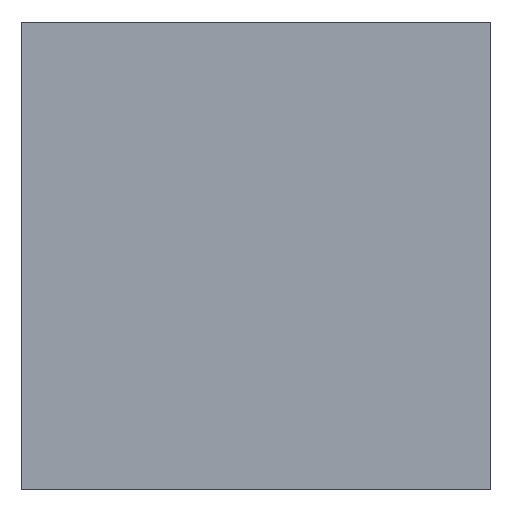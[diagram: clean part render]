
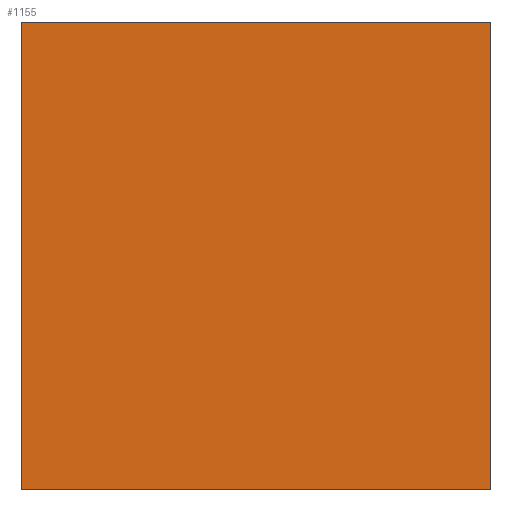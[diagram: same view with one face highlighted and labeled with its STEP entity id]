
A CAD part, left-side view. The second image highlights one B-rep face of the part: STEP entity #1155.
In plain terms, the highlighted planar face has unit normal (-1, 0, 0).
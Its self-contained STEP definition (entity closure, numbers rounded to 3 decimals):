
#447 = PLANE('',#448);
#448 = AXIS2_PLACEMENT_3D('',#449,#450,#451);
#449 = CARTESIAN_POINT('',(-5.52,-2.4,0.));
#450 = DIRECTION('',(0.,1.,0.));
#451 = DIRECTION('',(0.,0.,1.));
#555 = PLANE('',#556);
#556 = AXIS2_PLACEMENT_3D('',#557,#558,#559);
#557 = CARTESIAN_POINT('',(-5.52,-2.4,0.));
#558 = DIRECTION('',(0.,0.,1.));
#559 = DIRECTION('',(1.,0.,0.));
#679 = VERTEX_POINT('',#680);
#680 = CARTESIAN_POINT('',(-5.52,-2.4,0.));
#701 = EDGE_CURVE('',#679,#702,#704,.T.);
#702 = VERTEX_POINT('',#703);
#703 = CARTESIAN_POINT('',(-5.52,-2.4,4.78));
#704 = SURFACE_CURVE('',#705,(#709,#716),.PCURVE_S1.);
#705 = LINE('',#706,#707);
#706 = CARTESIAN_POINT('',(-5.52,-2.4,0.));
#707 = VECTOR('',#708,1.);
#708 = DIRECTION('',(0.,0.,1.));
#709 = PCURVE('',#447,#710);
#710 = DEFINITIONAL_REPRESENTATION('',(#711),#715);
#711 = LINE('',#712,#713);
#712 = CARTESIAN_POINT('',(0.,0.));
#713 = VECTOR('',#714,1.);
#714 = DIRECTION('',(1.,0.));
#715 = ( GEOMETRIC_REPRESENTATION_CONTEXT(2) 
PARAMETRIC_REPRESENTATION_CONTEXT() REPRESENTATION_CONTEXT('2D SPACE',''
  ) );
#716 = PCURVE('',#717,#722);
#717 = PLANE('',#718);
#718 = AXIS2_PLACEMENT_3D('',#719,#720,#721);
#719 = CARTESIAN_POINT('',(-5.52,-2.4,0.));
#720 = DIRECTION('',(1.,0.,0.));
#721 = DIRECTION('',(0.,0.,1.));
#722 = DEFINITIONAL_REPRESENTATION('',(#723),#727);
#723 = LINE('',#724,#725);
#724 = CARTESIAN_POINT('',(0.,0.));
#725 = VECTOR('',#726,1.);
#726 = DIRECTION('',(1.,0.));
#727 = ( GEOMETRIC_REPRESENTATION_CONTEXT(2) 
PARAMETRIC_REPRESENTATION_CONTEXT() REPRESENTATION_CONTEXT('2D SPACE',''
  ) );
#745 = PLANE('',#746);
#746 = AXIS2_PLACEMENT_3D('',#747,#748,#749);
#747 = CARTESIAN_POINT('',(-5.52,-2.4,4.78));
#748 = DIRECTION('',(0.,0.,1.));
#749 = DIRECTION('',(1.,0.,0.));
#805 = PLANE('',#806);
#806 = AXIS2_PLACEMENT_3D('',#807,#808,#809);
#807 = CARTESIAN_POINT('',(-5.52,2.4,0.));
#808 = DIRECTION('',(0.,1.,0.));
#809 = DIRECTION('',(0.,0.,1.));
#919 = VERTEX_POINT('',#920);
#920 = CARTESIAN_POINT('',(-5.52,2.4,0.));
#941 = EDGE_CURVE('',#679,#919,#942,.T.);
#942 = SURFACE_CURVE('',#943,(#947,#954),.PCURVE_S1.);
#943 = LINE('',#944,#945);
#944 = CARTESIAN_POINT('',(-5.52,-2.4,0.));
#945 = VECTOR('',#946,1.);
#946 = DIRECTION('',(0.,1.,0.));
#947 = PCURVE('',#555,#948);
#948 = DEFINITIONAL_REPRESENTATION('',(#949),#953);
#949 = LINE('',#950,#951);
#950 = CARTESIAN_POINT('',(0.,0.));
#951 = VECTOR('',#952,1.);
#952 = DIRECTION('',(0.,1.));
#953 = ( GEOMETRIC_REPRESENTATION_CONTEXT(2) 
PARAMETRIC_REPRESENTATION_CONTEXT() REPRESENTATION_CONTEXT('2D SPACE',''
  ) );
#954 = PCURVE('',#717,#955);
#955 = DEFINITIONAL_REPRESENTATION('',(#956),#960);
#956 = LINE('',#957,#958);
#957 = CARTESIAN_POINT('',(0.,0.));
#958 = VECTOR('',#959,1.);
#959 = DIRECTION('',(0.,-1.));
#960 = ( GEOMETRIC_REPRESENTATION_CONTEXT(2) 
PARAMETRIC_REPRESENTATION_CONTEXT() REPRESENTATION_CONTEXT('2D SPACE',''
  ) );
#1110 = EDGE_CURVE('',#702,#1111,#1113,.T.);
#1111 = VERTEX_POINT('',#1112);
#1112 = CARTESIAN_POINT('',(-5.52,2.4,4.78));
#1113 = SURFACE_CURVE('',#1114,(#1118,#1125),.PCURVE_S1.);
#1114 = LINE('',#1115,#1116);
#1115 = CARTESIAN_POINT('',(-5.52,-2.4,4.78));
#1116 = VECTOR('',#1117,1.);
#1117 = DIRECTION('',(0.,1.,0.));
#1118 = PCURVE('',#745,#1119);
#1119 = DEFINITIONAL_REPRESENTATION('',(#1120),#1124);
#1120 = LINE('',#1121,#1122);
#1121 = CARTESIAN_POINT('',(0.,0.));
#1122 = VECTOR('',#1123,1.);
#1123 = DIRECTION('',(0.,1.));
#1124 = ( GEOMETRIC_REPRESENTATION_CONTEXT(2) 
PARAMETRIC_REPRESENTATION_CONTEXT() REPRESENTATION_CONTEXT('2D SPACE',''
  ) );
#1125 = PCURVE('',#717,#1126);
#1126 = DEFINITIONAL_REPRESENTATION('',(#1127),#1131);
#1127 = LINE('',#1128,#1129);
#1128 = CARTESIAN_POINT('',(4.78,0.));
#1129 = VECTOR('',#1130,1.);
#1130 = DIRECTION('',(0.,-1.));
#1131 = ( GEOMETRIC_REPRESENTATION_CONTEXT(2) 
PARAMETRIC_REPRESENTATION_CONTEXT() REPRESENTATION_CONTEXT('2D SPACE',''
  ) );
#1155 = ADVANCED_FACE('',(#1156),#717,.F.);
#1156 = FACE_BOUND('',#1157,.F.);
#1157 = EDGE_LOOP('',(#1158,#1159,#1160,#1181));
#1158 = ORIENTED_EDGE('',*,*,#701,.F.);
#1159 = ORIENTED_EDGE('',*,*,#941,.T.);
#1160 = ORIENTED_EDGE('',*,*,#1161,.T.);
#1161 = EDGE_CURVE('',#919,#1111,#1162,.T.);
#1162 = SURFACE_CURVE('',#1163,(#1167,#1174),.PCURVE_S1.);
#1163 = LINE('',#1164,#1165);
#1164 = CARTESIAN_POINT('',(-5.52,2.4,0.));
#1165 = VECTOR('',#1166,1.);
#1166 = DIRECTION('',(0.,0.,1.));
#1167 = PCURVE('',#717,#1168);
#1168 = DEFINITIONAL_REPRESENTATION('',(#1169),#1173);
#1169 = LINE('',#1170,#1171);
#1170 = CARTESIAN_POINT('',(0.,-4.8));
#1171 = VECTOR('',#1172,1.);
#1172 = DIRECTION('',(1.,0.));
#1173 = ( GEOMETRIC_REPRESENTATION_CONTEXT(2) 
PARAMETRIC_REPRESENTATION_CONTEXT() REPRESENTATION_CONTEXT('2D SPACE',''
  ) );
#1174 = PCURVE('',#805,#1175);
#1175 = DEFINITIONAL_REPRESENTATION('',(#1176),#1180);
#1176 = LINE('',#1177,#1178);
#1177 = CARTESIAN_POINT('',(0.,0.));
#1178 = VECTOR('',#1179,1.);
#1179 = DIRECTION('',(1.,0.));
#1180 = ( GEOMETRIC_REPRESENTATION_CONTEXT(2) 
PARAMETRIC_REPRESENTATION_CONTEXT() REPRESENTATION_CONTEXT('2D SPACE',''
  ) );
#1181 = ORIENTED_EDGE('',*,*,#1110,.F.);
